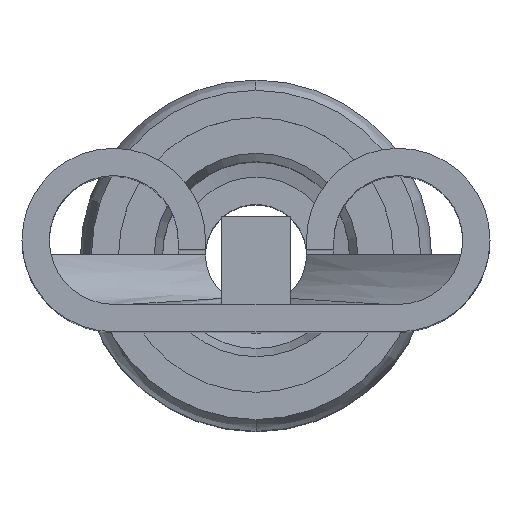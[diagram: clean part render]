
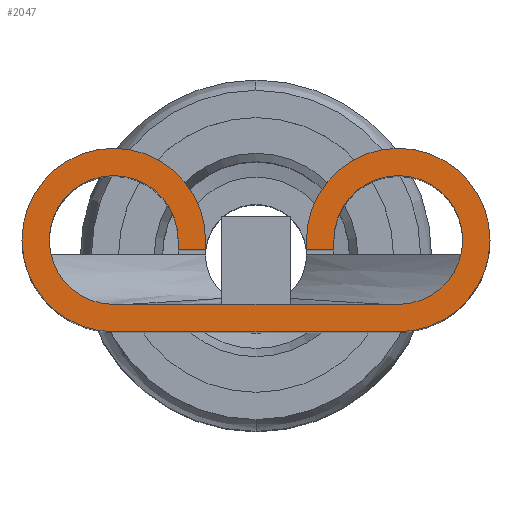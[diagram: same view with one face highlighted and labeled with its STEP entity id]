
A CAD part, top view. The second image highlights one B-rep face of the part: STEP entity #2047.
In plain terms, the highlighted planar face has unit normal (0, 0, 1).
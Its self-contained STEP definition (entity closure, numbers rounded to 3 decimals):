
#16 = VERTEX_POINT ( 'NONE', #1756 ) ;
#70 = VERTEX_POINT ( 'NONE', #1728 ) ;
#82 = VERTEX_POINT ( 'NONE', #1719 ) ;
#85 = VERTEX_POINT ( 'NONE', #1716 ) ;
#99 = VERTEX_POINT ( 'NONE', #1702 ) ;
#105 = VERTEX_POINT ( 'NONE', #1696 ) ;
#110 = VERTEX_POINT ( 'NONE', #1691 ) ;
#112 = VERTEX_POINT ( 'NONE', #1689 ) ;
#117 = VERTEX_POINT ( 'NONE', #1684 ) ;
#188 = EDGE_CURVE ( 'NONE', #82, #701, #278, .T. ) ;
#191 = EDGE_CURVE ( 'NONE', #105, #110, #282, .T. ) ;
#198 = EDGE_CURVE ( 'NONE', #729, #85, #290, .T. ) ;
#202 = EDGE_CURVE ( 'NONE', #729, #709, #300, .T. ) ;
#221 = EDGE_CURVE ( 'NONE', #70, #82, #1111, .T. ) ;
#222 = EDGE_CURVE ( 'NONE', #117, #112, #1118, .T. ) ;
#224 = EDGE_CURVE ( 'NONE', #16, #734, #1117, .T. ) ;
#226 = EDGE_CURVE ( 'NONE', #99, #709, #1123, .T. ) ;
#227 = EDGE_CURVE ( 'NONE', #117, #726, #1127, .T. ) ;
#234 = EDGE_CURVE ( 'NONE', #701, #110, #1138, .T. ) ;
#235 = EDGE_CURVE ( 'NONE', #734, #112, #1140, .T. ) ;
#278 = LINE ( 'NONE', #1680, #281 ) ;
#281 = VECTOR ( 'NONE', #1681, 1000. ) ;
#282 = LINE ( 'NONE', #1677, #283 ) ;
#283 = VECTOR ( 'NONE', #1671, 1000. ) ;
#290 = LINE ( 'NONE', #1662, #295 ) ;
#295 = VECTOR ( 'NONE', #1655, 1000. ) ;
#300 = CIRCLE ( 'NONE', #540, 1.499 ) ;
#308 = EDGE_LOOP ( 'NONE', ( #2849, #2850, #2851, #2852, #2853, #2854, #2855, #2856, #2857, #2858, #2859, #2860, #2861, #2862 ) ) ;
#325 = CARTESIAN_POINT ( 'NONE',  ( -2.324, 0.447, 0. ) ) ;
#335 = CARTESIAN_POINT ( 'NONE',  ( -2.324, 0., 0. ) ) ;
#342 = CARTESIAN_POINT ( 'NONE',  ( 3.823, 1.499, 0. ) ) ;
#349 = CARTESIAN_POINT ( 'NONE',  ( -0.826, 1.499, 0. ) ) ;
#352 = CARTESIAN_POINT ( 'NONE',  ( 1.273, 1.336, 0. ) ) ;
#460 = AXIS2_PLACEMENT_3D ( 'NONE', #2818, #2819, #2820 ) ;
#540 = AXIS2_PLACEMENT_3D ( 'NONE', #1646, #1645, #1644 ) ;
#590 = EDGE_CURVE ( 'NONE', #726, #99, #1203, .T. ) ;
#609 = EDGE_CURVE ( 'NONE', #16, #70, #1216, .T. ) ;
#632 = EDGE_CURVE ( 'NONE', #85, #105, #1471, .T. ) ;
#652 = AXIS2_PLACEMENT_3D ( 'NONE', #2103, #2104, #2105 ) ;
#676 = AXIS2_PLACEMENT_3D ( 'NONE', #1593, #1592, #1591 ) ;
#679 = AXIS2_PLACEMENT_3D ( 'NONE', #1582, #1581, #1580 ) ;
#681 = AXIS2_PLACEMENT_3D ( 'NONE', #1642, #1760, #1761 ) ;
#701 = VERTEX_POINT ( 'NONE', #325 ) ;
#709 = VERTEX_POINT ( 'NONE', #335 ) ;
#726 = VERTEX_POINT ( 'NONE', #342 ) ;
#729 = VERTEX_POINT ( 'NONE', #349 ) ;
#734 = VERTEX_POINT ( 'NONE', #352 ) ;
#1080 = FACE_OUTER_BOUND ( 'NONE', #308, .T. ) ;
#1111 = CIRCLE ( 'NONE', #676, 1.052 ) ;
#1117 = LINE ( 'NONE', #1594, #1124 ) ;
#1118 = LINE ( 'NONE', #1599, #1120 ) ;
#1120 = VECTOR ( 'NONE', #1600, 1000. ) ;
#1123 = LINE ( 'NONE', #1589, #1128 ) ;
#1124 = VECTOR ( 'NONE', #1587, 1000. ) ;
#1127 = CIRCLE ( 'NONE', #679, 1.499 ) ;
#1128 = VECTOR ( 'NONE', #1585, 1000. ) ;
#1138 = CIRCLE ( 'NONE', #681, 1.052 ) ;
#1140 = LINE ( 'NONE', #1569, #1142 ) ;
#1142 = VECTOR ( 'NONE', #1575, 1000. ) ;
#1203 = CIRCLE ( 'NONE', #460, 1.499 ) ;
#1216 = CIRCLE ( 'NONE', #652, 1.052 ) ;
#1471 = LINE ( 'NONE', #2167, #1473 ) ;
#1473 = VECTOR ( 'NONE', #2169, 1000. ) ;
#1569 = CARTESIAN_POINT ( 'NONE',  ( 0.826, 1.336, 0. ) ) ;
#1575 = DIRECTION ( 'NONE',  ( -1., 0., 0. ) ) ;
#1580 = DIRECTION ( 'NONE',  ( 1., 0., 0. ) ) ;
#1581 = DIRECTION ( 'NONE',  ( 0., 0., -1. ) ) ;
#1582 = CARTESIAN_POINT ( 'NONE',  ( 2.324, 1.499, 0. ) ) ;
#1585 = DIRECTION ( 'NONE',  ( -1., 0., 0. ) ) ;
#1587 = DIRECTION ( 'NONE',  ( 0., -1., 0. ) ) ;
#1589 = CARTESIAN_POINT ( 'NONE',  ( -2.324, 0., 0. ) ) ;
#1591 = DIRECTION ( 'NONE',  ( 1., 0., 0. ) ) ;
#1592 = DIRECTION ( 'NONE',  ( 0., 0., -1. ) ) ;
#1593 = CARTESIAN_POINT ( 'NONE',  ( 2.324, 1.499, 0. ) ) ;
#1594 = CARTESIAN_POINT ( 'NONE',  ( 1.273, 1.336, 0. ) ) ;
#1599 = CARTESIAN_POINT ( 'NONE',  ( 0.826, 0., 0. ) ) ;
#1600 = DIRECTION ( 'NONE',  ( 0., -1., 0. ) ) ;
#1642 = CARTESIAN_POINT ( 'NONE',  ( -2.324, 1.499, 0. ) ) ;
#1644 = DIRECTION ( 'NONE',  ( 1., 0., 0. ) ) ;
#1645 = DIRECTION ( 'NONE',  ( 0., 0., 1. ) ) ;
#1646 = CARTESIAN_POINT ( 'NONE',  ( -2.324, 1.499, 0. ) ) ;
#1655 = DIRECTION ( 'NONE',  ( 0., -1., 0. ) ) ;
#1662 = CARTESIAN_POINT ( 'NONE',  ( -0.826, 1.336, 0. ) ) ;
#1671 = DIRECTION ( 'NONE',  ( 0., 1., 0. ) ) ;
#1677 = CARTESIAN_POINT ( 'NONE',  ( -1.273, 1.499, 0. ) ) ;
#1680 = CARTESIAN_POINT ( 'NONE',  ( 0., 0.447, 0. ) ) ;
#1681 = DIRECTION ( 'NONE',  ( -1., 0., 0. ) ) ;
#1684 = CARTESIAN_POINT ( 'NONE',  ( 0.826, 1.499, 0. ) ) ;
#1689 = CARTESIAN_POINT ( 'NONE',  ( 0.826, 1.336, 0. ) ) ;
#1691 = CARTESIAN_POINT ( 'NONE',  ( -1.273, 1.499, 0. ) ) ;
#1696 = CARTESIAN_POINT ( 'NONE',  ( -1.273, 1.336, 0. ) ) ;
#1702 = CARTESIAN_POINT ( 'NONE',  ( 2.324, 0., 0. ) ) ;
#1716 = CARTESIAN_POINT ( 'NONE',  ( -0.826, 1.336, 0. ) ) ;
#1719 = CARTESIAN_POINT ( 'NONE',  ( 2.324, 0.447, 0. ) ) ;
#1728 = CARTESIAN_POINT ( 'NONE',  ( 3.376, 1.499, 0. ) ) ;
#1756 = CARTESIAN_POINT ( 'NONE',  ( 1.273, 1.499, 0. ) ) ;
#1760 = DIRECTION ( 'NONE',  ( 0., 0., -1. ) ) ;
#1761 = DIRECTION ( 'NONE',  ( 1., 0., 0. ) ) ;
#2047 = ADVANCED_FACE ( 'NONE', ( #1080 ), #2742, .T. ) ;
#2103 = CARTESIAN_POINT ( 'NONE',  ( 2.324, 1.499, 0. ) ) ;
#2104 = DIRECTION ( 'NONE',  ( 0., 0., -1. ) ) ;
#2105 = DIRECTION ( 'NONE',  ( 1., 0., 0. ) ) ;
#2167 = CARTESIAN_POINT ( 'NONE',  ( -1.273, 1.336, 0. ) ) ;
#2169 = DIRECTION ( 'NONE',  ( -1., 0., 0. ) ) ;
#2742 = PLANE ( 'NONE',  #3160 ) ;
#2762 = CARTESIAN_POINT ( 'NONE',  ( 0., 0., 0. ) ) ;
#2763 = DIRECTION ( 'NONE',  ( 0., 0., 1. ) ) ;
#2764 = DIRECTION ( 'NONE',  ( 1., 0., 0. ) ) ;
#2818 = CARTESIAN_POINT ( 'NONE',  ( 2.324, 1.499, 0. ) ) ;
#2819 = DIRECTION ( 'NONE',  ( 0., 0., -1. ) ) ;
#2820 = DIRECTION ( 'NONE',  ( 1., 0., 0. ) ) ;
#2849 = ORIENTED_EDGE ( 'NONE', *, *, #609, .T. ) ;
#2850 = ORIENTED_EDGE ( 'NONE', *, *, #221, .T. ) ;
#2851 = ORIENTED_EDGE ( 'NONE', *, *, #188, .T. ) ;
#2852 = ORIENTED_EDGE ( 'NONE', *, *, #234, .T. ) ;
#2853 = ORIENTED_EDGE ( 'NONE', *, *, #191, .F. ) ;
#2854 = ORIENTED_EDGE ( 'NONE', *, *, #632, .F. ) ;
#2855 = ORIENTED_EDGE ( 'NONE', *, *, #198, .F. ) ;
#2856 = ORIENTED_EDGE ( 'NONE', *, *, #202, .T. ) ;
#2857 = ORIENTED_EDGE ( 'NONE', *, *, #226, .F. ) ;
#2858 = ORIENTED_EDGE ( 'NONE', *, *, #590, .F. ) ;
#2859 = ORIENTED_EDGE ( 'NONE', *, *, #227, .F. ) ;
#2860 = ORIENTED_EDGE ( 'NONE', *, *, #222, .T. ) ;
#2861 = ORIENTED_EDGE ( 'NONE', *, *, #235, .F. ) ;
#2862 = ORIENTED_EDGE ( 'NONE', *, *, #224, .F. ) ;
#3160 = AXIS2_PLACEMENT_3D ( 'NONE', #2762, #2763, #2764 ) ;
